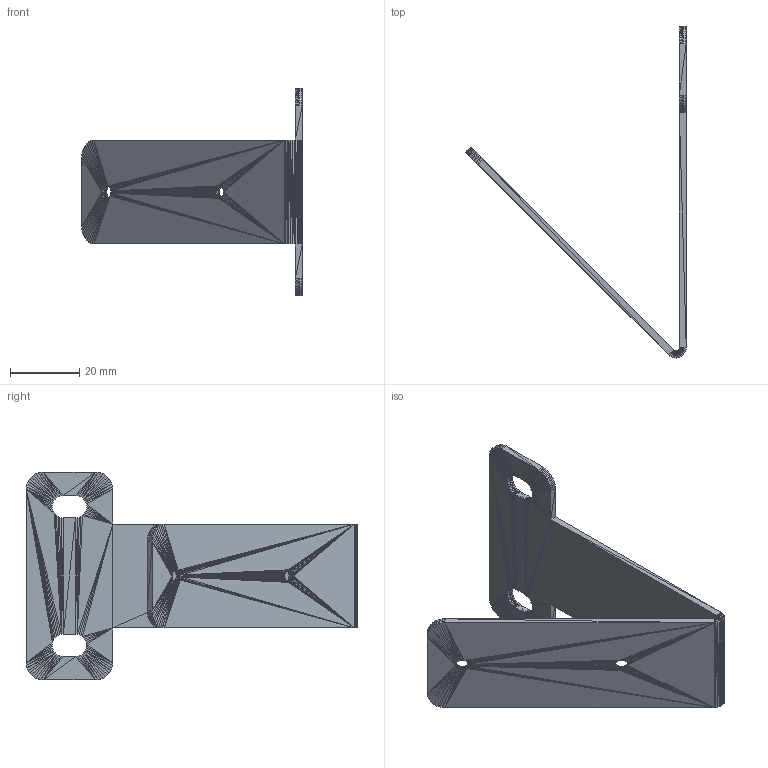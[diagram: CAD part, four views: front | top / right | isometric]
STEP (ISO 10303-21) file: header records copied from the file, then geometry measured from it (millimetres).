
FILE_DESCRIPTION((''),'2;1');
FILE_NAME('190240', '2025-07-15T09:34:21', (''), (''), 'ImageToStl.com STEP Converter','', '');
FILE_SCHEMA(('AUTOMOTIVE_DESIGN_CC2'));
Length unit declared in the file: metre
Products named in the file (1): product0
Bounding box: 63.64 x 95.75 x 60 mm (x, y, z)
Surface area: 13073 mm2 (no closed solid volume)
Topology: 0 solids, 1020 shells, 1020 faces, 3060 edges, 504 vertices
Faces by surface type: plane 1020
Entity records: 23476 total; most frequent: DIRECTION 5102, ORIENTED_EDGE 3060, EDGE_CURVE 3060, LINE 3060, VECTOR 3060, AXIS2_PLACEMENT_3D 1021, FACE_SURFACE 1020, PLANE 1020
